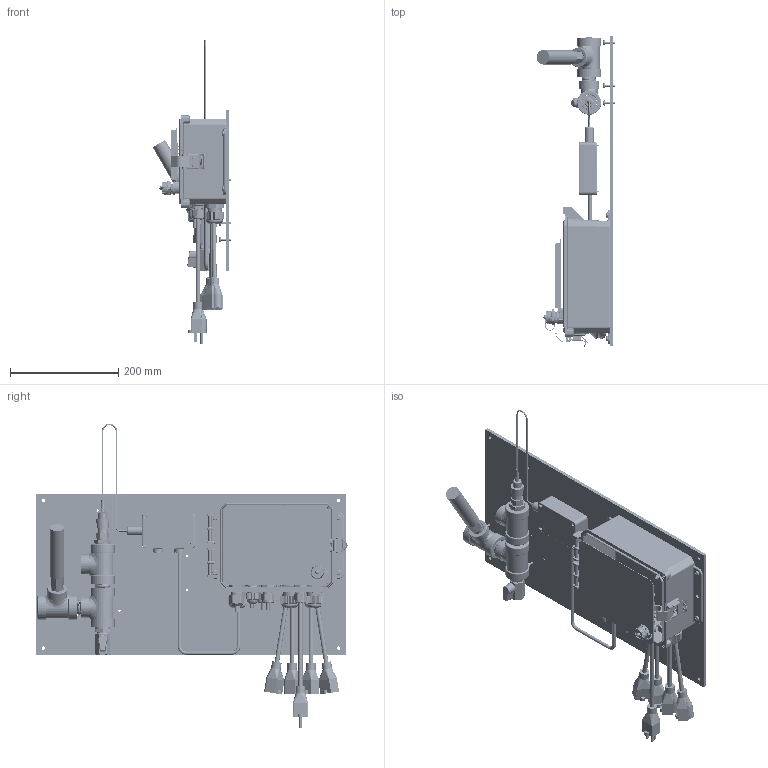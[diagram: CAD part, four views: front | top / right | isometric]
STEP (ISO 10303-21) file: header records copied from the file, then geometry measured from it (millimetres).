
FILE_DESCRIPTION (( 'STEP AP203' ), '1' );
FILE_NAME ('W600-PH-QN.STEP', '2019-05-28T16:58:04', ( '' ), ( '' ), 'SwSTEP 2.0', 'SolidWorks 2019', '' );
FILE_SCHEMA (( 'CONFIG_CONTROL_DESIGN' ));
Length unit declared in the file: inch
Products named in the file (70): SHELL-102961ws; 103861_without letter; ISA0016; 103025; SHELL-102962; SHELL-191669 lock; 1032_375H_insert; Nut for M20; SHELL-191669 cap_Drilled out; 191577-INTEGRA; 191619-01; W600-PH-QN; ISA0018_3 Wire; 103835; 103004; SHELL-191669; 9912562-82-10; ISA0021; W600-PH-QN Manifold; 191584; 100101_USB; W600 Shell; ISA0020; SHELL-104031_4513K347; SHELL-PK 102 OT; 9912571-82-10_95345A043; 103809; SHELL-102961_30075T212; 102907; 103911; 103938; SHELL-103874; 102407; SHELL-103056_4912K4; SHELL-PK 102-211 UT_PK 102-211 UT-02; 9912575-82-10_90631A007; 103807; SHELL-103886_98273A320; 102903_102903; ISA0014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
Assembly tree (111 placements, depth 4):
  W600-PH-QN
    W600 Shell
      ISA0011
        191576-INTERGRA
        1032_375H_insert  x2
        9912562-82-10
        9912571-82-10_95345A043  x2
        9912575-82-10_90631A007  x2
        102444
        9912576-82-10  x2
      191577-INTEGRA
      191584
      ISA0018_3 Wire
        102907
        102903_102903
        102906
        103860_Cord1  x2
        103861_without letter  x2
      ISA0018_3 Wire
        102907
        102903_102903
        102906
        103860_Cord1  x2
        103861_without letter  x2
      ISA0017
        103938
        103859_Cord1
        PCG-11 nut
      ISA0020
        102907
        103025  x6
        103004
        102903_102903
      ISA0019_Plug
        103938
        102407
        PCG-11 nut
      ISA0019_Plug
        103938
        102407
        PCG-11 nut
      ISA0021
        103946
        102407
        Nut for M20
      ISA0022
        103809
        103025  x3
        PCG-11 nut
        103807
      103803
      ISA0014
        103867
        191619-01
        100101_USB
        103911
      ISA0016
        103910
        103832
      103835
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Bounding box: 145.37 x 575.15 x 563.17 mm (x, y, z)
Volume: 2374970.4 mm3; surface area: 1198541.6 mm2
Topology: 466 solids, 478 shells, 12242 faces, 32044 edges, 21060 vertices
Faces by surface type: plane 7187, cylinder 3064, bspline 1151, cone 704, torus 116, sphere 20
Entity records: 560279 total; most frequent: CARTESIAN_POINT 246650, ORIENTED_EDGE 68813, DIRECTION 54393, EDGE_CURVE 34422, VERTEX_POINT 22432, LINE 20861, VECTOR 20861, AXIS2_PLACEMENT_3D 16766
